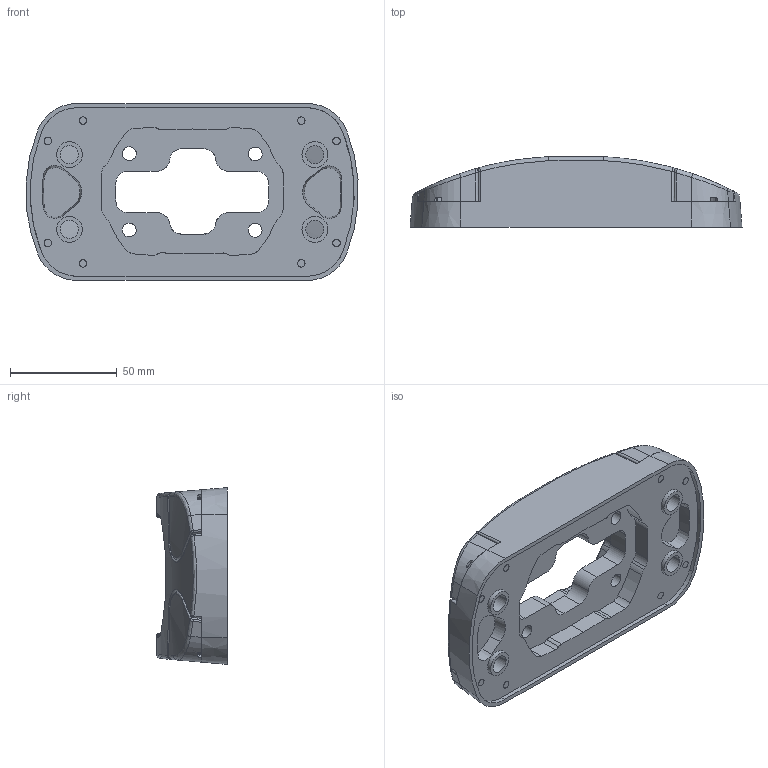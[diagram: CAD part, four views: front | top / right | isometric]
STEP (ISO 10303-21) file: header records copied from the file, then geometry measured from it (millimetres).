
FILE_DESCRIPTION (( 'STEP AP203' ), '1' );
FILE_NAME ('TP.060.9000.STEP', '2026-09-30T10:05:07', ( '' ), ( '' ), 'SwSTEP 2.0', 'SolidWorks 2015', '' );
FILE_SCHEMA (( 'CONFIG_CONTROL_DESIGN' ));
Length unit declared in the file: millimetre
Products named in the file (6): TP.060.9000 (2); TP.060.9000; TP.060.9000 (1); TP.060.9000 (3); TP.060.9000 (4)
Assembly tree (5 placements, depth 2):
  TP.060.9000
    TP.060.9000 (1)
    TP.060.9000 (2)
    TP.060.9000 (3)
    TP.060.9000 (4)
    TP.060.9000
Bounding box: 155.56 x 33.12 x 82.87 mm (x, y, z)
Volume: 173325.7 mm3; surface area: 53979.7 mm2
Topology: 5 solids, 5 shells, 566 faces, 1450 edges, 911 vertices
Faces by surface type: bspline 336, plane 119, cylinder 101, cone 10
Entity records: 46623 total; most frequent: CARTESIAN_POINT 35055, ORIENTED_EDGE 2900, EDGE_CURVE 1450, DIRECTION 1101, B_SPLINE_CURVE_WITH_KNOTS 922, VERTEX_POINT 911, EDGE_LOOP 617, FACE_OUTER_BOUND 566
